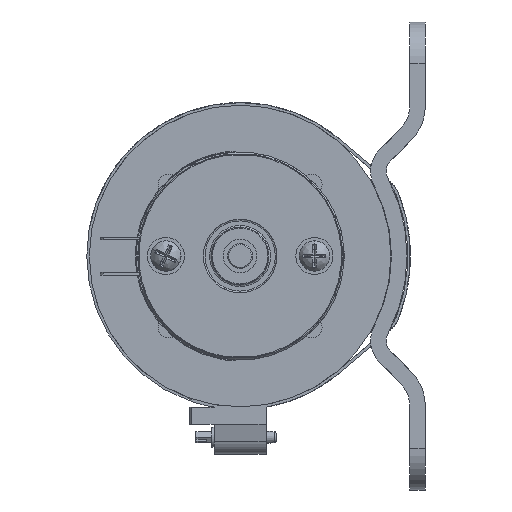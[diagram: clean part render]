
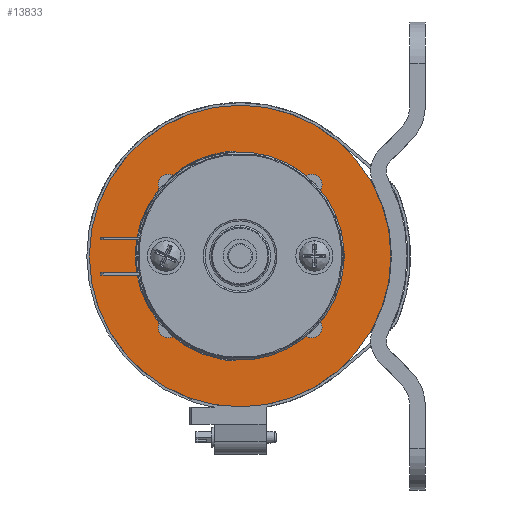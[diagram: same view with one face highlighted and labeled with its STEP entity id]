
A CAD part, left-side view. The second image highlights one B-rep face of the part: STEP entity #13833.
In plain terms, the highlighted planar face has unit normal (-1, 0, 0) as drawn and (0, 0, -1) by its records, which use the part's own axes.
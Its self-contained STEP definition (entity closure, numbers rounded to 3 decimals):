
#437 = EDGE_CURVE ( 'NONE', #13683, #13683, #32933, .T. ) ;
#1173 = EDGE_CURVE ( 'NONE', #22102, #22102, #3792, .T. ) ;
#1694 = ORIENTED_EDGE ( 'NONE', *, *, #437, .T. ) ;
#2022 = ORIENTED_EDGE ( 'NONE', *, *, #22924, .T. ) ;
#2217 = EDGE_CURVE ( 'NONE', #11467, #11467, #38239, .T. ) ;
#2233 = EDGE_LOOP ( 'NONE', ( #42728 ) ) ;
#2259 = DIRECTION ( 'NONE',  ( 0., 0., 1. ) ) ;
#3792 = CIRCLE ( 'NONE', #40059, 2. ) ;
#5018 = FACE_BOUND ( 'NONE', #14075, .T. ) ;
#6883 = CARTESIAN_POINT ( 'NONE',  ( -6.35, 0., -12.55 ) ) ;
#7682 = AXIS2_PLACEMENT_3D ( 'NONE', #34244, #2259, #27241 ) ;
#8283 = CIRCLE ( 'NONE', #43936, 2. ) ;
#8857 = CARTESIAN_POINT ( 'NONE',  ( 0., 0., -12.55 ) ) ;
#9343 = DIRECTION ( 'NONE',  ( 1., 0., 0. ) ) ;
#9614 = DIRECTION ( 'NONE',  ( 0., 0., -1. ) ) ;
#11467 = VERTEX_POINT ( 'NONE', #6883 ) ;
#12398 = DIRECTION ( 'NONE',  ( 1., 0., 0. ) ) ;
#12477 = EDGE_LOOP ( 'NONE', ( #29716 ) ) ;
#13492 = CARTESIAN_POINT ( 'NONE',  ( 13.753, 13.753, -12.55 ) ) ;
#13636 = VERTEX_POINT ( 'NONE', #28222 ) ;
#13683 = VERTEX_POINT ( 'NONE', #35292 ) ;
#13833 = ADVANCED_FACE ( 'NONE', ( #24003, #33493, #14499, #5018, #16740, #41875 ), #20069, .F. ) ;
#13857 = EDGE_LOOP ( 'NONE', ( #18594 ) ) ;
#14075 = EDGE_LOOP ( 'NONE', ( #2022 ) ) ;
#14499 = FACE_BOUND ( 'NONE', #43874, .T. ) ;
#14904 = AXIS2_PLACEMENT_3D ( 'NONE', #8857, #33805, #12398 ) ;
#15445 = EDGE_CURVE ( 'NONE', #13636, #13636, #43234, .T. ) ;
#15550 = AXIS2_PLACEMENT_3D ( 'NONE', #30969, #9614, #34572 ) ;
#16353 = DIRECTION ( 'NONE',  ( 0., 0., 1. ) ) ;
#16426 = CARTESIAN_POINT ( 'NONE',  ( -13.753, -13.753, -12.55 ) ) ;
#16457 = EDGE_CURVE ( 'NONE', #22061, #22061, #21281, .T. ) ;
#16740 = FACE_BOUND ( 'NONE', #12477, .T. ) ;
#17917 = CARTESIAN_POINT ( 'NONE',  ( -11.753, 13.753, -12.55 ) ) ;
#18594 = ORIENTED_EDGE ( 'NONE', *, *, #16457, .T. ) ;
#19940 = CARTESIAN_POINT ( 'NONE',  ( -13.753, 13.753, -12.55 ) ) ;
#20056 = DIRECTION ( 'NONE',  ( 1., 0., 0. ) ) ;
#20069 = PLANE ( 'NONE',  #7682 ) ;
#21281 = CIRCLE ( 'NONE', #28717, 2. ) ;
#22061 = VERTEX_POINT ( 'NONE', #35385 ) ;
#22102 = VERTEX_POINT ( 'NONE', #42498 ) ;
#22924 = EDGE_CURVE ( 'NONE', #24828, #24828, #8283, .T. ) ;
#23514 = DIRECTION ( 'NONE',  ( 1., 0., 0. ) ) ;
#24003 = FACE_BOUND ( 'NONE', #2233, .T. ) ;
#24828 = VERTEX_POINT ( 'NONE', #17917 ) ;
#27241 = DIRECTION ( 'NONE',  ( 1., 0., 0. ) ) ;
#28222 = CARTESIAN_POINT ( 'NONE',  ( 29., 0., -12.55 ) ) ;
#28717 = AXIS2_PLACEMENT_3D ( 'NONE', #37755, #16353, #41346 ) ;
#29716 = ORIENTED_EDGE ( 'NONE', *, *, #2217, .F. ) ;
#30969 = CARTESIAN_POINT ( 'NONE',  ( 0., 0., -12.55 ) ) ;
#32933 = CIRCLE ( 'NONE', #36430, 2. ) ;
#33493 = FACE_BOUND ( 'NONE', #13857, .T. ) ;
#33805 = DIRECTION ( 'NONE',  ( 0., 0., 1. ) ) ;
#34244 = CARTESIAN_POINT ( 'NONE',  ( 0., 0., -12.55 ) ) ;
#34572 = DIRECTION ( 'NONE',  ( -1., 0., 0. ) ) ;
#35292 = CARTESIAN_POINT ( 'NONE',  ( 15.753, 13.753, -12.55 ) ) ;
#35385 = CARTESIAN_POINT ( 'NONE',  ( 15.753, -13.753, -12.55 ) ) ;
#36430 = AXIS2_PLACEMENT_3D ( 'NONE', #13492, #45729, #9343 ) ;
#37755 = CARTESIAN_POINT ( 'NONE',  ( 13.753, -13.753, -12.55 ) ) ;
#38239 = CIRCLE ( 'NONE', #15550, 6.35 ) ;
#40059 = AXIS2_PLACEMENT_3D ( 'NONE', #16426, #41431, #20056 ) ;
#41346 = DIRECTION ( 'NONE',  ( 1., 0., 0. ) ) ;
#41431 = DIRECTION ( 'NONE',  ( 0., 0., 1. ) ) ;
#41875 = FACE_OUTER_BOUND ( 'NONE', #45073, .T. ) ;
#42498 = CARTESIAN_POINT ( 'NONE',  ( -11.753, -13.753, -12.55 ) ) ;
#42728 = ORIENTED_EDGE ( 'NONE', *, *, #1173, .T. ) ;
#43234 = CIRCLE ( 'NONE', #14904, 29. ) ;
#43874 = EDGE_LOOP ( 'NONE', ( #1694 ) ) ;
#43936 = AXIS2_PLACEMENT_3D ( 'NONE', #19940, #44912, #23514 ) ;
#43952 = ORIENTED_EDGE ( 'NONE', *, *, #15445, .F. ) ;
#44912 = DIRECTION ( 'NONE',  ( 0., 0., 1. ) ) ;
#45073 = EDGE_LOOP ( 'NONE', ( #43952 ) ) ;
#45729 = DIRECTION ( 'NONE',  ( 0., 0., 1. ) ) ;
